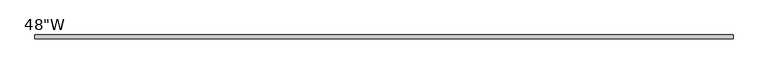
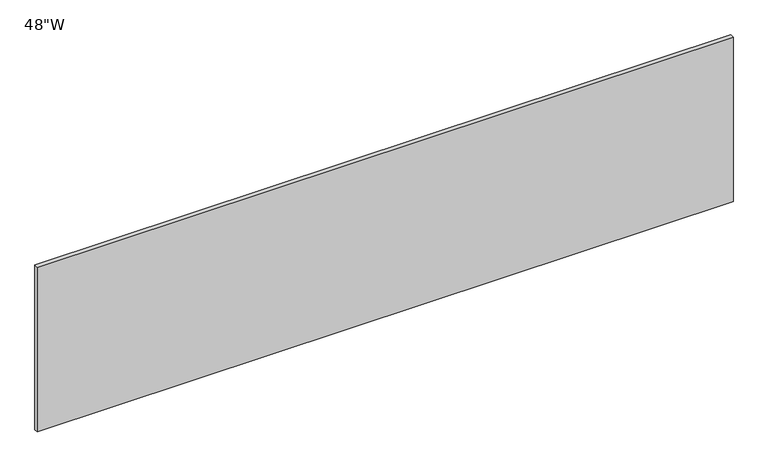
"""IFC4 building model written with IfcOpenShell, lengths in millimetres: furniture geometry."""

from ifc_helpers import new_model, si_unit, frame, origin, place, context, project, spatial, polyline, outline, extrude, source, transform, mapped, element, save


def furniture_78dc57b8(model_context):
    return source(origin(), model_context, "Body", "SweptSolid", [
        extrude(outline(polyline([(596.9, -6.35), (-596.9, -6.35), (-596.9, 0.0), (596.9, 0.0), (596.9, -6.35)])), frame((0.0, 0.0, 1733.55), z_axis=(0.0, 0.0, 1.0), x_axis=(1.0, 0.0, 0.0)), (0.0, 0.0, 1.0), 298.45),
    ])


if __name__ == "__main__":
    model = new_model("IFC4")
    model_context = context("Model", 3, world=origin())
    ifc_project = project(units=[si_unit("LENGTHUNIT", "METRE", prefix="MILLI")], contexts=[model_context])
    site = spatial("IfcSite", under=ifc_project)
    building = spatial("IfcBuilding", under=site)
    placement = place(None, origin())
    furniture_shape = furniture_78dc57b8(model_context)
    element("IfcFurniture", 1, ObjectType="HermanMiller_ActionOffice_A3390_B-StyleFlipperDoorBackPanel : 48\"W", at=placement, inside=building, context=model_context, shape_type="MappedRepresentation", body=[
        mapped(furniture_shape, transform((0.0, 0.0, 0.0), x_axis=(1.0, 0.0, 0.0), y_axis=(0.0, 1.0, 0.0), z_axis=(0.0, 0.0, 1.0))),
    ])
    save(model, "model.ifc")
